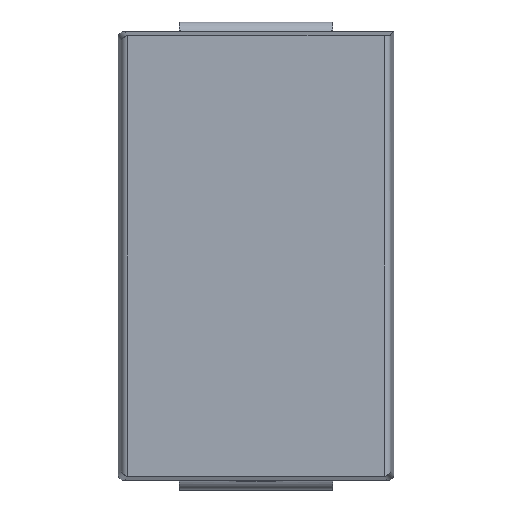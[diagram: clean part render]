
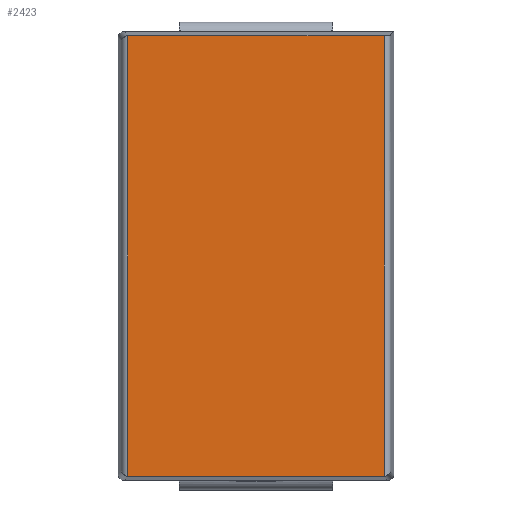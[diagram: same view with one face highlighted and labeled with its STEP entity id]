
A CAD part, front view. The second image highlights one B-rep face of the part: STEP entity #2423.
In plain terms, the highlighted planar face has unit normal (0, -1, 0).
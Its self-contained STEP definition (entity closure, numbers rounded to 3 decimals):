
#64 = ORIENTED_EDGE ( 'NONE', *, *, #1546, .T. ) ;
#131 = AXIS2_PLACEMENT_3D ( 'NONE', #3577, #801, #215 ) ;
#179 = VECTOR ( 'NONE', #2967, 1000. ) ;
#207 = EDGE_CURVE ( 'NONE', #3447, #3708, #2565, .T. ) ;
#215 = DIRECTION ( 'NONE',  ( 0., 0., 1. ) ) ;
#387 = VERTEX_POINT ( 'NONE', #3221 ) ;
#482 = ORIENTED_EDGE ( 'NONE', *, *, #2549, .F. ) ;
#525 = CARTESIAN_POINT ( 'NONE',  ( 1.993, -0.5, -3.439 ) ) ;
#597 = CARTESIAN_POINT ( 'NONE',  ( 2., -0.5, -3.438 ) ) ;
#598 = ORIENTED_EDGE ( 'NONE', *, *, #207, .F. ) ;
#676 = DIRECTION ( 'NONE',  ( 0., 0., -1. ) ) ;
#744 = CARTESIAN_POINT ( 'NONE',  ( -1.997, -0.5, 3.438 ) ) ;
#801 = DIRECTION ( 'NONE',  ( 0., 1., 0. ) ) ;
#833 = CARTESIAN_POINT ( 'NONE',  ( 1.989, -0.5, -3.439 ) ) ;
#988 = EDGE_LOOP ( 'NONE', ( #482, #64, #2374, #1560, #598, #1489, #3440 ) ) ;
#1055 = VERTEX_POINT ( 'NONE', #597 ) ;
#1164 = FACE_OUTER_BOUND ( 'NONE', #988, .T. ) ;
#1265 = DIRECTION ( 'NONE',  ( 1., 0., 0. ) ) ;
#1293 = VERTEX_POINT ( 'NONE', #1685 ) ;
#1489 = ORIENTED_EDGE ( 'NONE', *, *, #3093, .T. ) ;
#1495 = EDGE_CURVE ( 'NONE', #387, #2009, #2784, .T. ) ;
#1532 = CARTESIAN_POINT ( 'NONE',  ( 1.989, -0.5, -3.439 ) ) ;
#1546 = EDGE_CURVE ( 'NONE', #3295, #387, #2542, .T. ) ;
#1560 = ORIENTED_EDGE ( 'NONE', *, *, #3375, .T. ) ;
#1573 = CARTESIAN_POINT ( 'NONE',  ( 0., -0.5, 3.439 ) ) ;
#1663 = CARTESIAN_POINT ( 'NONE',  ( -1.993, -0.5, 3.439 ) ) ;
#1685 = CARTESIAN_POINT ( 'NONE',  ( 2., -0.5, 3.439 ) ) ;
#1796 = EDGE_CURVE ( 'NONE', #1055, #1293, #2034, .T. ) ;
#1812 =( BOUNDED_CURVE ( )  B_SPLINE_CURVE ( 3, ( #833, #525, #2611, #3292 ),
 .UNSPECIFIED., .F., .F. ) 
 B_SPLINE_CURVE_WITH_KNOTS ( ( 4, 4 ),
 ( 5.505, 5.613 ),
 .UNSPECIFIED. ) 
 CURVE ( )  GEOMETRIC_REPRESENTATION_ITEM ( )  RATIONAL_B_SPLINE_CURVE ( ( 1., 0.999, 0.999, 1. ) ) 
 REPRESENTATION_ITEM ( '' )  );
#1858 = LINE ( 'NONE', #1573, #2624 ) ;
#2009 = VERTEX_POINT ( 'NONE', #2065 ) ;
#2034 = LINE ( 'NONE', #3275, #179 ) ;
#2042 = PLANE ( 'NONE',  #131 ) ;
#2065 = CARTESIAN_POINT ( 'NONE',  ( -2., -0.5, -3.438 ) ) ;
#2202 = CARTESIAN_POINT ( 'NONE',  ( 0., -0.5, -3.439 ) ) ;
#2298 = CARTESIAN_POINT ( 'NONE',  ( -1.997, -0.5, -3.438 ) ) ;
#2356 = VECTOR ( 'NONE', #676, 1000. ) ;
#2374 = ORIENTED_EDGE ( 'NONE', *, *, #1495, .T. ) ;
#2423 = ADVANCED_FACE ( 'NONE', ( #1164 ), #2042, .F. ) ;
#2542 =( BOUNDED_CURVE ( )  B_SPLINE_CURVE ( 3, ( #3186, #1663, #744, #2887 ),
 .UNSPECIFIED., .F., .T. ) 
 B_SPLINE_CURVE_WITH_KNOTS ( ( 4, 4 ),
 ( 5.505, 5.613 ),
 .UNSPECIFIED. ) 
 CURVE ( )  GEOMETRIC_REPRESENTATION_ITEM ( )  RATIONAL_B_SPLINE_CURVE ( ( 1., 0.999, 0.999, 1. ) ) 
 REPRESENTATION_ITEM ( '' )  );
#2549 = EDGE_CURVE ( 'NONE', #3295, #1293, #1858, .T. ) ;
#2565 = LINE ( 'NONE', #2202, #2697 ) ;
#2611 = CARTESIAN_POINT ( 'NONE',  ( 1.997, -0.5, -3.438 ) ) ;
#2624 = VECTOR ( 'NONE', #1265, 1000. ) ;
#2697 = VECTOR ( 'NONE', #3804, 1000. ) ;
#2716 = CARTESIAN_POINT ( 'NONE',  ( -2., -0.5, -3.439 ) ) ;
#2784 = LINE ( 'NONE', #2716, #2356 ) ;
#2887 = CARTESIAN_POINT ( 'NONE',  ( -2., -0.5, 3.438 ) ) ;
#2943 = CARTESIAN_POINT ( 'NONE',  ( -1.993, -0.5, -3.439 ) ) ;
#2967 = DIRECTION ( 'NONE',  ( 0., 0., 1. ) ) ;
#3077 =( BOUNDED_CURVE ( )  B_SPLINE_CURVE ( 3, ( #3230, #2298, #2943, #3841 ),
 .UNSPECIFIED., .F., .F. ) 
 B_SPLINE_CURVE_WITH_KNOTS ( ( 4, 4 ),
 ( 0.671, 0.778 ),
 .UNSPECIFIED. ) 
 CURVE ( )  GEOMETRIC_REPRESENTATION_ITEM ( )  RATIONAL_B_SPLINE_CURVE ( ( 1., 0.999, 0.999, 1. ) ) 
 REPRESENTATION_ITEM ( '' )  );
#3093 = EDGE_CURVE ( 'NONE', #3447, #1055, #1812, .T. ) ;
#3186 = CARTESIAN_POINT ( 'NONE',  ( -1.989, -0.5, 3.439 ) ) ;
#3221 = CARTESIAN_POINT ( 'NONE',  ( -2., -0.5, 3.438 ) ) ;
#3230 = CARTESIAN_POINT ( 'NONE',  ( -2., -0.5, -3.438 ) ) ;
#3275 = CARTESIAN_POINT ( 'NONE',  ( 2., -0.5, 3.439 ) ) ;
#3292 = CARTESIAN_POINT ( 'NONE',  ( 2., -0.5, -3.438 ) ) ;
#3295 = VERTEX_POINT ( 'NONE', #3610 ) ;
#3375 = EDGE_CURVE ( 'NONE', #2009, #3708, #3077, .T. ) ;
#3440 = ORIENTED_EDGE ( 'NONE', *, *, #1796, .T. ) ;
#3447 = VERTEX_POINT ( 'NONE', #1532 ) ;
#3577 = CARTESIAN_POINT ( 'NONE',  ( 0., -0.5, 0. ) ) ;
#3610 = CARTESIAN_POINT ( 'NONE',  ( -1.989, -0.5, 3.439 ) ) ;
#3708 = VERTEX_POINT ( 'NONE', #3794 ) ;
#3794 = CARTESIAN_POINT ( 'NONE',  ( -1.989, -0.5, -3.439 ) ) ;
#3804 = DIRECTION ( 'NONE',  ( -1., 0., 0. ) ) ;
#3841 = CARTESIAN_POINT ( 'NONE',  ( -1.989, -0.5, -3.439 ) ) ;
